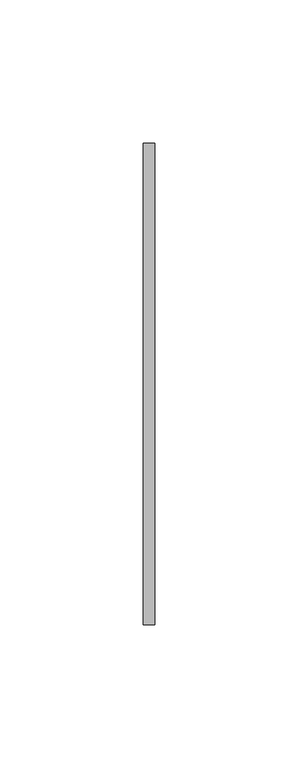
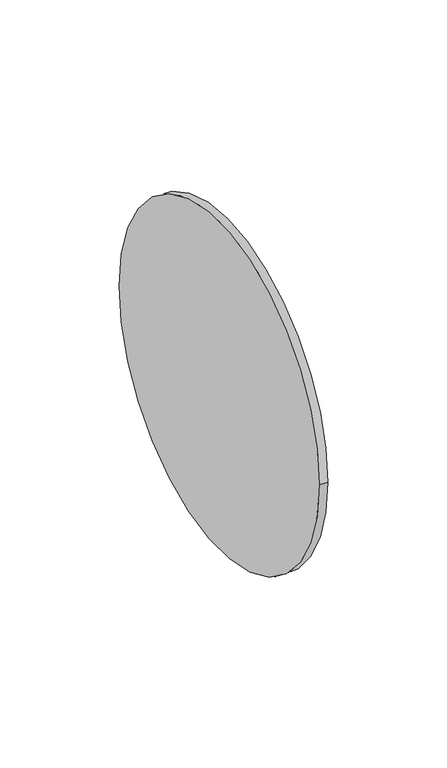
"""IFC4 building model written with IfcOpenShell, lengths in millimetres: pipe fitting geometry, PipeAccessory_GirpiHTA_CPVC_FlatGasketsForFlangeAdaptors : PipeAccessory_GirpiHTA_CPVC_FlatGasketsForFlangeAdaptors."""

from ifc_helpers import new_model, si_unit, point, frame, origin, origin_2d, place, context, project, spatial, circle_curve, trimmed, segment, composite_curve, outline, extrude, source, transform, mapped, element, save


def pipe_fitting_fe60b640(model_context):
    return source(origin(), model_context, "Body", "SweptSolid", [
        extrude(outline(composite_curve([segment(trimmed(circle_curve(origin_2d(), 84.0), [point((-84.0, 0.0))], [point((84.0, 0.0))], False, "CARTESIAN"), True, "CONTINUOUS"), segment(trimmed(circle_curve(origin_2d(), 84.0), [point((84.0, 0.0))], [point((-84.0, 0.0))], False, "CARTESIAN"), True, "CONTINUOUS")], self_intersect=False)), frame((-2.0, 0.0, 0.0), z_axis=(1.0, 0.0, 0.0), x_axis=(0.0, 1.0, 0.0)), (0.0, 0.0, 1.0), 4.0),
    ])


if __name__ == "__main__":
    model = new_model("IFC4")
    model_context = context("Model", 3, world=origin())
    ifc_project = project(units=[si_unit("LENGTHUNIT", "METRE", prefix="MILLI")], contexts=[model_context])
    site = spatial("IfcSite", under=ifc_project)
    building = spatial("IfcBuilding", under=site)
    placement = place(None, origin())
    pipe_fitting_shape = pipe_fitting_fe60b640(model_context)
    element("IfcPipeFitting", 1, ObjectType="PipeAccessory_GirpiHTA_CPVC_FlatGasketsForFlangeAdaptors : PipeAccessory_GirpiHTA_CPVC_FlatGasketsForFlangeAdaptors", at=placement, inside=building, context=model_context, shape_type="MappedRepresentation", body=[
        mapped(pipe_fitting_shape, transform((0.0, 0.0, 0.0), x_axis=(1.0, 0.0, 0.0), y_axis=(0.0, 1.0, 0.0), z_axis=(0.0, 0.0, 1.0))),
    ])
    save(model, "model.ifc")
